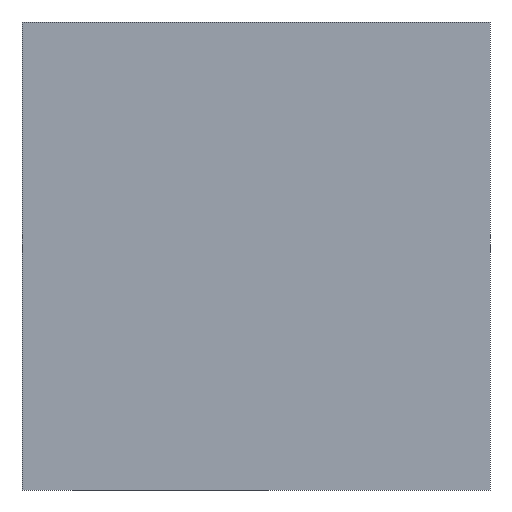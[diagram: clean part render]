
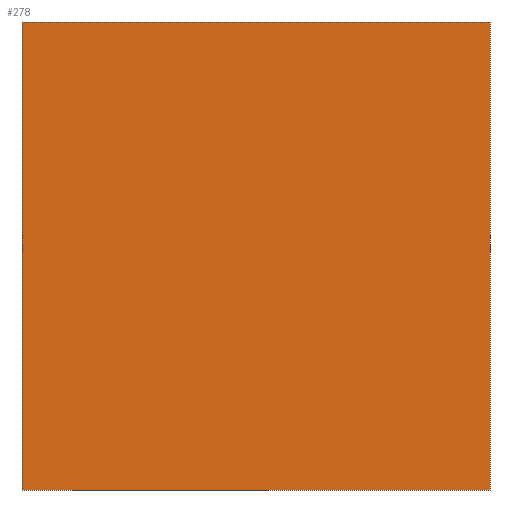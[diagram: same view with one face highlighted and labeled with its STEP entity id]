
A CAD part, front view. The second image highlights one B-rep face of the part: STEP entity #278.
In plain terms, the highlighted planar face has unit normal (0, -1, 0).
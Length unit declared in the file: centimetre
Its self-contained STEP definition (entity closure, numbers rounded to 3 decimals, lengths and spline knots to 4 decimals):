
#1 = VERTEX_POINT ( 'NONE', #376 ) ;
#11 = CARTESIAN_POINT ( 'NONE',  ( 1000., 0., 1000. ) ) ;
#34 = LINE ( 'NONE', #168, #159 ) ;
#38 = DIRECTION ( 'NONE',  ( 1., 0., 0. ) ) ;
#48 = DIRECTION ( 'NONE',  ( 1., 0., 0. ) ) ;
#50 = EDGE_CURVE ( 'NONE', #149, #259, #54, .T. ) ;
#54 = LINE ( 'NONE', #11, #287 ) ;
#67 = VECTOR ( 'NONE', #415, 100. ) ;
#85 = ORIENTED_EDGE ( 'NONE', *, *, #207, .T. ) ;
#100 = LINE ( 'NONE', #356, #67 ) ;
#112 = DIRECTION ( 'NONE',  ( 0., 0., -1. ) ) ;
#115 = CARTESIAN_POINT ( 'NONE',  ( 1000., 0., 1000. ) ) ;
#125 = CARTESIAN_POINT ( 'NONE',  ( 0., 0., 0. ) ) ;
#137 = PLANE ( 'NONE',  #419 ) ;
#144 = EDGE_CURVE ( 'NONE', #438, #259, #150, .T. ) ;
#149 = VERTEX_POINT ( 'NONE', #115 ) ;
#150 = LINE ( 'NONE', #260, #357 ) ;
#159 = VECTOR ( 'NONE', #38, 100. ) ;
#168 = CARTESIAN_POINT ( 'NONE',  ( 0., 0., 1000. ) ) ;
#174 = DIRECTION ( 'NONE',  ( 0., 0., 1. ) ) ;
#207 = EDGE_CURVE ( 'NONE', #1, #438, #100, .T. ) ;
#213 = EDGE_CURVE ( 'NONE', #1, #149, #34, .T. ) ;
#241 = FACE_OUTER_BOUND ( 'NONE', #264, .T. ) ;
#244 = CARTESIAN_POINT ( 'NONE',  ( 1000., 0., 0. ) ) ;
#253 = ORIENTED_EDGE ( 'NONE', *, *, #144, .T. ) ;
#259 = VERTEX_POINT ( 'NONE', #244 ) ;
#260 = CARTESIAN_POINT ( 'NONE',  ( 0., 0., 0. ) ) ;
#264 = EDGE_LOOP ( 'NONE', ( #253, #330, #391, #85 ) ) ;
#278 = ADVANCED_FACE ( 'NONE', ( #241 ), #137, .F. ) ;
#287 = VECTOR ( 'NONE', #112, 100. ) ;
#321 = CARTESIAN_POINT ( 'NONE',  ( 0., 0., 1000. ) ) ;
#330 = ORIENTED_EDGE ( 'NONE', *, *, #50, .F. ) ;
#356 = CARTESIAN_POINT ( 'NONE',  ( 0., 0., 1000. ) ) ;
#357 = VECTOR ( 'NONE', #48, 100. ) ;
#376 = CARTESIAN_POINT ( 'NONE',  ( 0., 0., 1000. ) ) ;
#383 = DIRECTION ( 'NONE',  ( 0., 1., 0. ) ) ;
#391 = ORIENTED_EDGE ( 'NONE', *, *, #213, .F. ) ;
#415 = DIRECTION ( 'NONE',  ( 0., 0., -1. ) ) ;
#419 = AXIS2_PLACEMENT_3D ( 'NONE', #321, #383, #174 ) ;
#438 = VERTEX_POINT ( 'NONE', #125 ) ;
